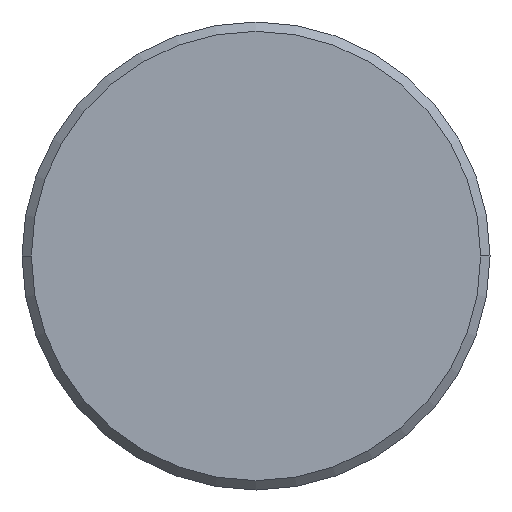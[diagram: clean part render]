
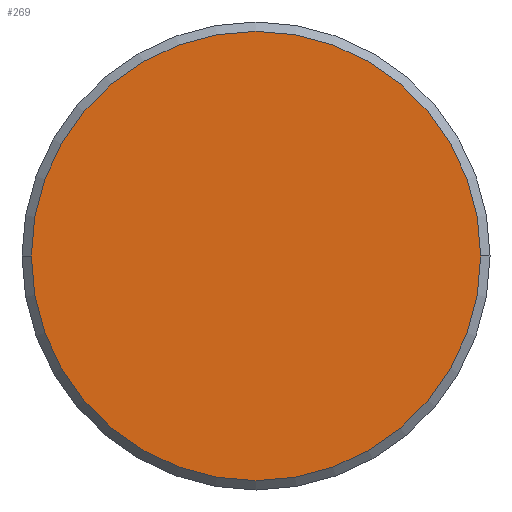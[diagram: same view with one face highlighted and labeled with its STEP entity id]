
A CAD part, left-side view. The second image highlights one B-rep face of the part: STEP entity #269.
In plain terms, the highlighted planar face has unit normal (-1, 0, 0).
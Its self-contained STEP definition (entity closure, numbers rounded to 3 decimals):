
#8 = FACE_OUTER_BOUND ( 'NONE', #132, .T. ) ;
#54 = DIRECTION ( 'NONE',  ( 0., 1., 0. ) ) ;
#59 = AXIS2_PLACEMENT_3D ( 'NONE', #74, #310, #158 ) ;
#61 = CARTESIAN_POINT ( 'NONE',  ( -58., 0., 0. ) ) ;
#74 = CARTESIAN_POINT ( 'NONE',  ( -58., 0., 0. ) ) ;
#95 = DIRECTION ( 'NONE',  ( 0., 1., 0. ) ) ;
#109 = EDGE_CURVE ( 'NONE', #300, #179, #126, .T. ) ;
#122 = ORIENTED_EDGE ( 'NONE', *, *, #128, .F. ) ;
#125 = DIRECTION ( 'NONE',  ( 1., 0., 0. ) ) ;
#126 = CIRCLE ( 'NONE', #220, 12. ) ;
#128 = EDGE_CURVE ( 'NONE', #179, #300, #258, .T. ) ;
#132 = EDGE_LOOP ( 'NONE', ( #353, #122 ) ) ;
#158 = DIRECTION ( 'NONE',  ( 0., -1., 0. ) ) ;
#163 = CARTESIAN_POINT ( 'NONE',  ( -58., 12., 0. ) ) ;
#179 = VERTEX_POINT ( 'NONE', #212 ) ;
#212 = CARTESIAN_POINT ( 'NONE',  ( -58., -12., 0. ) ) ;
#220 = AXIS2_PLACEMENT_3D ( 'NONE', #61, #260, #95 ) ;
#256 = AXIS2_PLACEMENT_3D ( 'NONE', #283, #125, #54 ) ;
#258 = CIRCLE ( 'NONE', #256, 12. ) ;
#260 = DIRECTION ( 'NONE',  ( 1., 0., 0. ) ) ;
#269 = ADVANCED_FACE ( 'NONE', ( #8 ), #315, .T. ) ;
#283 = CARTESIAN_POINT ( 'NONE',  ( -58., 0., 0. ) ) ;
#300 = VERTEX_POINT ( 'NONE', #163 ) ;
#310 = DIRECTION ( 'NONE',  ( -1., 0., 0. ) ) ;
#315 = PLANE ( 'NONE',  #59 ) ;
#353 = ORIENTED_EDGE ( 'NONE', *, *, #109, .F. ) ;
